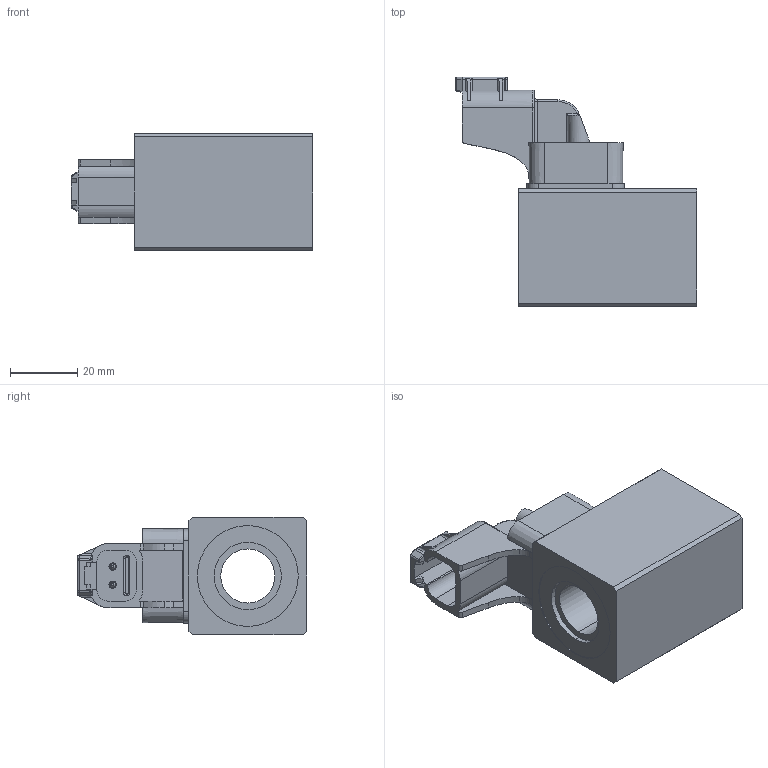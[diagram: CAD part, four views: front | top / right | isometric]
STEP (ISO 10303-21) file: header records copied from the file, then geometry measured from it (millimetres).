
FILE_DESCRIPTION (( 'STEP AP214' ), '1' );
FILE_NAME ('MGS35_16x50.STEP', '2015-07-06T14:06:18', ( '' ), ( '' ), 'SwSTEP 2.0', 'SolidWorks 2014', '' );
FILE_SCHEMA (( 'AUTOMOTIVE_DESIGN' ));
Length unit declared in the file: millimetre
Products named in the file (2): MGS35_16x50
Bounding box: 71.8 x 68.2 x 35 mm (x, y, z)
Volume: 66380.4 mm3; surface area: 22630.3 mm2
Topology: 5 solids, 9 shells, 460 faces, 1165 edges, 737 vertices
Faces by surface type: plane 224, cylinder 163, cone 30, torus 24, bspline 11, sphere 8
Entity records: 19364 total; most frequent: CARTESIAN_POINT 3176, DIRECTION 2356, ORIENTED_EDGE 2322, EDGE_CURVE 1161, AXIS2_PLACEMENT_3D 843, VERTEX_POINT 737, VECTOR 670, LINE 670
